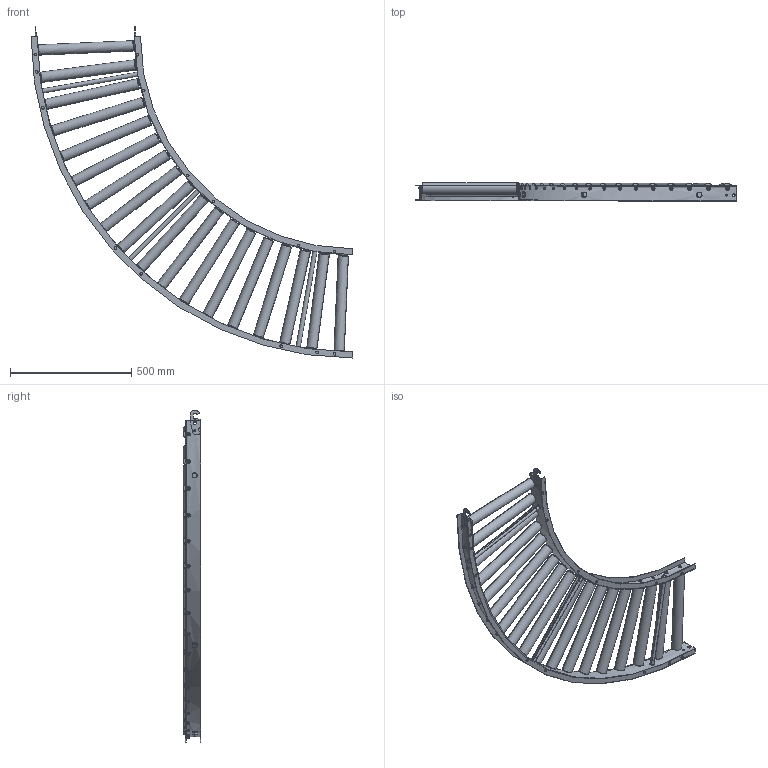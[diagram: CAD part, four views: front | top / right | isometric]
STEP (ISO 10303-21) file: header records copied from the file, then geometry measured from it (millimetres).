
FILE_DESCRIPTION (( 'STEP AP203' ), '1' );
FILE_NAME ('SA-4218_C.step', '2024-03-02T05:10:52', ( '' ), ( '' ), 'SwSTEP 2.0', 'SolidWorks 2023', '' );
FILE_SCHEMA (( 'CONFIG_CONTROL_DESIGN' ));
Length unit declared in the file: millimetre
Products named in the file (1): SA-4218_C
Bounding box: 1325 x 72.22 x 1367.21 mm (x, y, z)
Volume: 11350009.9 mm3; surface area: 2173807.2 mm2
Topology: 73 solids, 73 shells, 1242 faces, 2784 edges, 1748 vertices
Faces by surface type: plane 502, cylinder 416, cone 252, torus 72
Entity records: 42569 total; most frequent: CARTESIAN_POINT 15099, DIRECTION 5570, ORIENTED_EDGE 5568, EDGE_CURVE 2784, AXIS2_PLACEMENT_3D 2271, VERTEX_POINT 1748, EDGE_LOOP 1516, ADVANCED_FACE 1242
